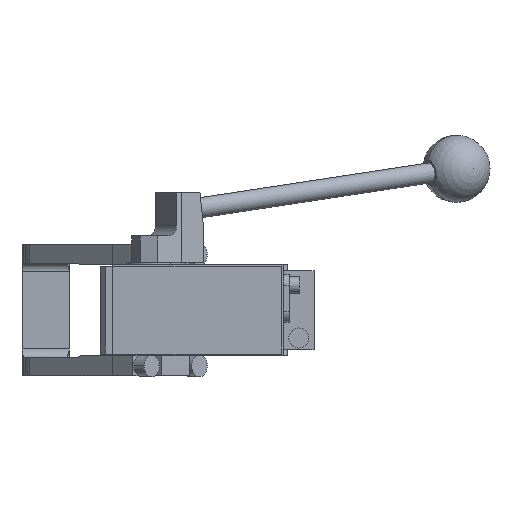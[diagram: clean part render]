
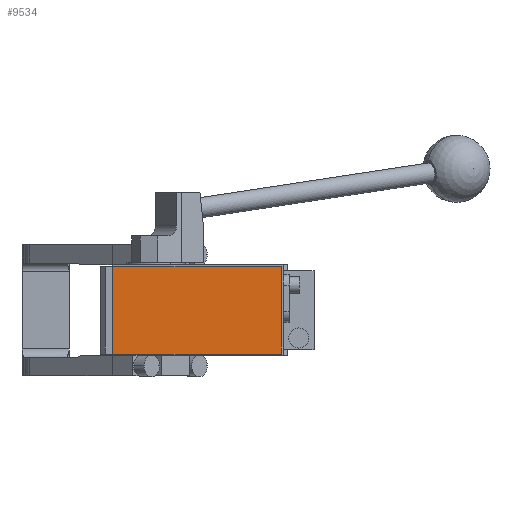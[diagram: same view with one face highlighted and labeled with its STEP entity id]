
A CAD part, front view. The second image highlights one B-rep face of the part: STEP entity #9534.
In plain terms, the highlighted planar face has unit normal (0, -1, 0).
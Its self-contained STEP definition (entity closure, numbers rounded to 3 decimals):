
#1780 = PLANE ( 'NONE',  #13609 ) ;
#2990 = VECTOR ( 'NONE', #3113, 1000. ) ;
#2999 = EDGE_CURVE ( 'NONE', #12023, #14875, #3795, .T. ) ;
#3065 = CARTESIAN_POINT ( 'NONE',  ( -19., -286.5, 26. ) ) ;
#3113 = DIRECTION ( 'NONE',  ( 1., 0., 0. ) ) ;
#3243 = ORIENTED_EDGE ( 'NONE', *, *, #13792, .T. ) ;
#3521 = ORIENTED_EDGE ( 'NONE', *, *, #3903, .T. ) ;
#3795 = LINE ( 'NONE', #9536, #11431 ) ;
#3903 = EDGE_CURVE ( 'NONE', #7962, #8920, #9027, .T. ) ;
#4617 = LINE ( 'NONE', #5992, #11804 ) ;
#4629 = EDGE_LOOP ( 'NONE', ( #3243, #3521, #6281, #14284 ) ) ;
#5253 = VECTOR ( 'NONE', #9705, 1000. ) ;
#5992 = CARTESIAN_POINT ( 'NONE',  ( 81., -286.5, 26. ) ) ;
#6281 = ORIENTED_EDGE ( 'NONE', *, *, #14519, .T. ) ;
#6418 = DIRECTION ( 'NONE',  ( -1., 0., 0. ) ) ;
#7223 = DIRECTION ( 'NONE',  ( 0., 0., 1. ) ) ;
#7348 = CARTESIAN_POINT ( 'NONE',  ( 81., -286.5, 26. ) ) ;
#7667 = CARTESIAN_POINT ( 'NONE',  ( -19., -286.5, 26. ) ) ;
#7962 = VERTEX_POINT ( 'NONE', #8671 ) ;
#8671 = CARTESIAN_POINT ( 'NONE',  ( -19., -286.5, -26. ) ) ;
#8749 = LINE ( 'NONE', #7667, #5253 ) ;
#8920 = VERTEX_POINT ( 'NONE', #12700 ) ;
#9027 = LINE ( 'NONE', #12692, #2990 ) ;
#9534 = ADVANCED_FACE ( 'NONE', ( #11916 ), #1780, .T. ) ;
#9536 = CARTESIAN_POINT ( 'NONE',  ( -19., -286.5, 26. ) ) ;
#9705 = DIRECTION ( 'NONE',  ( 0., 0., -1. ) ) ;
#9892 = DIRECTION ( 'NONE',  ( 0., -1., 0. ) ) ;
#11077 = CARTESIAN_POINT ( 'NONE',  ( 0., -286.5, 0. ) ) ;
#11431 = VECTOR ( 'NONE', #6418, 1000. ) ;
#11804 = VECTOR ( 'NONE', #7223, 1000. ) ;
#11916 = FACE_OUTER_BOUND ( 'NONE', #4629, .T. ) ;
#12023 = VERTEX_POINT ( 'NONE', #7348 ) ;
#12073 = DIRECTION ( 'NONE',  ( 0., 0., -1. ) ) ;
#12692 = CARTESIAN_POINT ( 'NONE',  ( -19., -286.5, -26. ) ) ;
#12700 = CARTESIAN_POINT ( 'NONE',  ( 81., -286.5, -26. ) ) ;
#13609 = AXIS2_PLACEMENT_3D ( 'NONE', #11077, #9892, #12073 ) ;
#13792 = EDGE_CURVE ( 'NONE', #14875, #7962, #8749, .T. ) ;
#14284 = ORIENTED_EDGE ( 'NONE', *, *, #2999, .T. ) ;
#14519 = EDGE_CURVE ( 'NONE', #8920, #12023, #4617, .T. ) ;
#14875 = VERTEX_POINT ( 'NONE', #3065 ) ;
